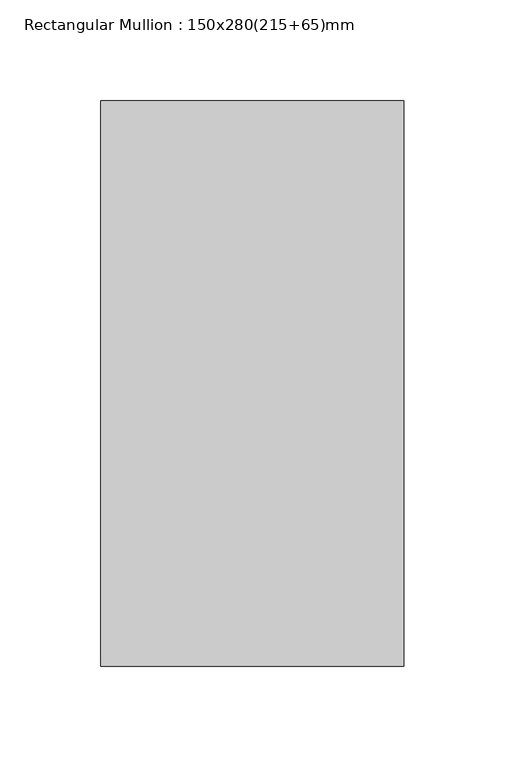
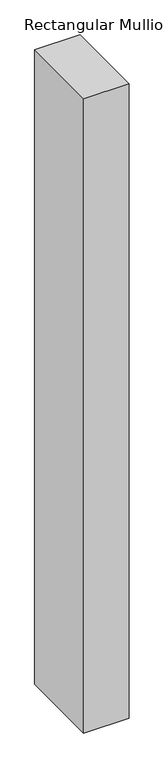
"""IFC4 building model written with IfcOpenShell, lengths in millimetres: member geometry, Rectangular Mullion : 150x280(215+65)mm."""

from ifc_helpers import new_model, si_unit, frame, origin, place, context, project, spatial, polyline, outline, extrude, source, transform, mapped, element, save


def rectangular_mullion_150x280_215_65_mm_a58cc091(model_context):
    return source(origin(), model_context, "Body", "SweptSolid", [
        extrude(outline(polyline([(0.0, 215.0), (0.0, -65.0), (-150.0, -65.0), (-150.0, 215.0), (0.0, 215.0)])), frame((0.0, 0.0, -2210.0), z_axis=(0.0, 0.0, 1.0), x_axis=(1.0, 0.0, 0.0)), (0.0, 0.0, 1.0), 2210.0),
    ])


if __name__ == "__main__":
    model = new_model("IFC4")
    model_context = context("Model", 3, world=origin())
    ifc_project = project(units=[si_unit("LENGTHUNIT", "METRE", prefix="MILLI")], contexts=[model_context])
    site = spatial("IfcSite", under=ifc_project)
    building = spatial("IfcBuilding", under=site)
    placement = place(None, origin())
    rectangular_mullion_150x280_215_65_mm_shape = rectangular_mullion_150x280_215_65_mm_a58cc091(model_context)
    element("IfcMember", 1, ObjectType="Rectangular Mullion : 150x280(215+65)mm", at=placement, inside=building, context=model_context, shape_type="MappedRepresentation", body=[
        mapped(rectangular_mullion_150x280_215_65_mm_shape, transform((0.0, 0.0, 0.0), x_axis=(1.0, 0.0, 0.0), y_axis=(0.0, 1.0, 0.0), z_axis=(0.0, 0.0, 1.0))),
    ])
    save(model, "model.ifc")
